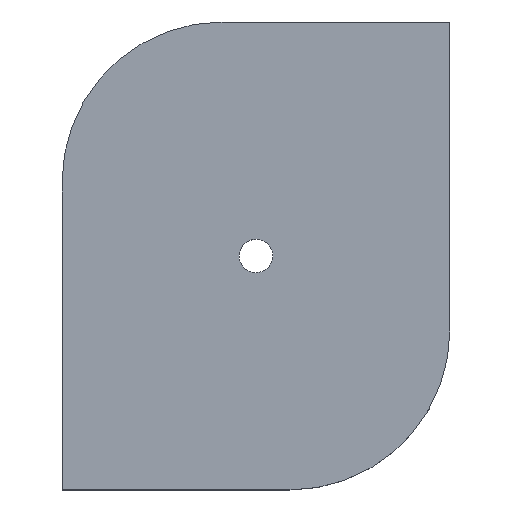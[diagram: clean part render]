
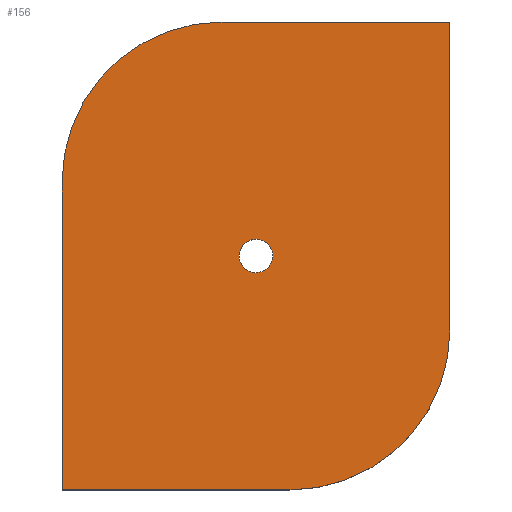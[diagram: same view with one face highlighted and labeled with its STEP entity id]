
A CAD part, top view. The second image highlights one B-rep face of the part: STEP entity #156.
In plain terms, the highlighted planar face has unit normal (0, 0, 1).
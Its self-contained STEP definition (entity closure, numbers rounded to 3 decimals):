
#63=CARTESIAN_POINT('Vertex',(44.825,60.508,12.)) ;
#77=CARTESIAN_POINT('Vertex',(52.175,56.492,12.)) ;
#80=CARTESIAN_POINT('Axis2P3D Location',(48.5,58.5,12.)) ;
#92=CARTESIAN_POINT('Axis2P3D Location',(0.,0.,12.)) ;
#97=CARTESIAN_POINT('Line Origine',(0.,38.5,12.)) ;
#101=CARTESIAN_POINT('Vertex',(0.,77.,12.)) ;
#103=CARTESIAN_POINT('Vertex',(0.,0.,12.)) ;
#106=CARTESIAN_POINT('Line Origine',(28.5,0.,12.)) ;
#110=CARTESIAN_POINT('Vertex',(57.,0.,12.)) ;
#113=CARTESIAN_POINT('Axis2P3D Location',(57.,40.,12.)) ;
#117=CARTESIAN_POINT('Vertex',(97.,40.,12.)) ;
#120=CARTESIAN_POINT('Line Origine',(97.,78.5,12.)) ;
#124=CARTESIAN_POINT('Vertex',(97.,117.,12.)) ;
#127=CARTESIAN_POINT('Line Origine',(68.5,117.,12.)) ;
#131=CARTESIAN_POINT('Vertex',(40.,117.,12.)) ;
#134=CARTESIAN_POINT('Axis2P3D Location',(40.,77.,12.)) ;
#147=CARTESIAN_POINT('Axis2P3D Location',(48.5,58.5,12.)) ;
#81=DIRECTION('Axis2P3D Direction',(0.,-0.,-1.)) ;
#93=DIRECTION('Axis2P3D Direction',(0.,0.,1.)) ;
#94=DIRECTION('Axis2P3D XDirection',(1.,0.,0.)) ;
#98=DIRECTION('Vector Direction',(0.,-1.,0.)) ;
#107=DIRECTION('Vector Direction',(1.,0.,0.)) ;
#114=DIRECTION('Axis2P3D Direction',(0.,0.,1.)) ;
#121=DIRECTION('Vector Direction',(0.,1.,0.)) ;
#128=DIRECTION('Vector Direction',(-1.,0.,0.)) ;
#135=DIRECTION('Axis2P3D Direction',(0.,0.,1.)) ;
#148=DIRECTION('Axis2P3D Direction',(0.,0.,1.)) ;
#82=AXIS2_PLACEMENT_3D('Circle Axis2P3D',#80,#81,$) ;
#95=AXIS2_PLACEMENT_3D('Plane Axis2P3D',#92,#93,#94) ;
#115=AXIS2_PLACEMENT_3D('Circle Axis2P3D',#113,#114,$) ;
#136=AXIS2_PLACEMENT_3D('Circle Axis2P3D',#134,#135,$) ;
#149=AXIS2_PLACEMENT_3D('Circle Axis2P3D',#147,#148,$) ;
#140=ORIENTED_EDGE('',*,*,#105,.T.) ;
#141=ORIENTED_EDGE('',*,*,#112,.T.) ;
#142=ORIENTED_EDGE('',*,*,#119,.F.) ;
#143=ORIENTED_EDGE('',*,*,#126,.T.) ;
#144=ORIENTED_EDGE('',*,*,#133,.T.) ;
#145=ORIENTED_EDGE('',*,*,#138,.F.) ;
#153=ORIENTED_EDGE('',*,*,#151,.F.) ;
#154=ORIENTED_EDGE('',*,*,#84,.F.) ;
#155=FACE_BOUND('',#152,.T.) ;
#99=VECTOR('Line Direction',#98,1.) ;
#108=VECTOR('Line Direction',#107,1.) ;
#122=VECTOR('Line Direction',#121,1.) ;
#129=VECTOR('Line Direction',#128,1.) ;
#156=ADVANCED_FACE('PartBody',(#146,#155),#96,.T.) ;
#83=CIRCLE('generated circle',#82,4.188) ;
#116=CIRCLE('generated circle',#115,40.) ;
#137=CIRCLE('generated circle',#136,40.) ;
#150=CIRCLE('generated circle',#149,4.188) ;
#84=EDGE_CURVE('',#78,#64,#83,.F.) ;
#105=EDGE_CURVE('',#102,#104,#100,.T.) ;
#112=EDGE_CURVE('',#104,#111,#109,.T.) ;
#119=EDGE_CURVE('',#118,#111,#116,.F.) ;
#126=EDGE_CURVE('',#118,#125,#123,.T.) ;
#133=EDGE_CURVE('',#125,#132,#130,.T.) ;
#138=EDGE_CURVE('',#102,#132,#137,.F.) ;
#151=EDGE_CURVE('',#64,#78,#150,.T.) ;
#139=EDGE_LOOP('',(#140,#141,#142,#143,#144,#145)) ;
#152=EDGE_LOOP('',(#153,#154)) ;
#146=FACE_OUTER_BOUND('',#139,.T.) ;
#100=LINE('Line',#97,#99) ;
#109=LINE('Line',#106,#108) ;
#123=LINE('Line',#120,#122) ;
#130=LINE('Line',#127,#129) ;
#96=PLANE('',#95) ;
#64=VERTEX_POINT('',#63) ;
#78=VERTEX_POINT('',#77) ;
#102=VERTEX_POINT('',#101) ;
#104=VERTEX_POINT('',#103) ;
#111=VERTEX_POINT('',#110) ;
#118=VERTEX_POINT('',#117) ;
#125=VERTEX_POINT('',#124) ;
#132=VERTEX_POINT('',#131) ;
